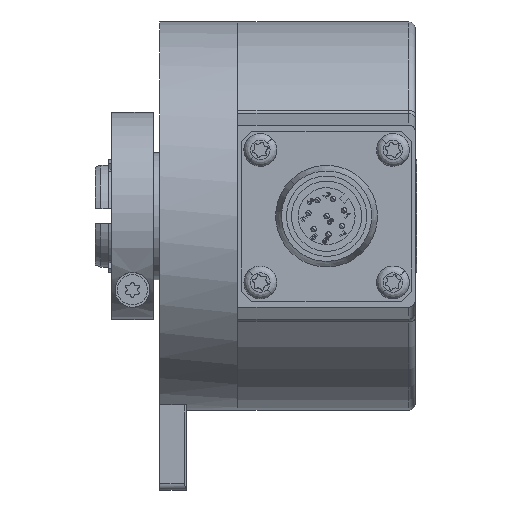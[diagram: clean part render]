
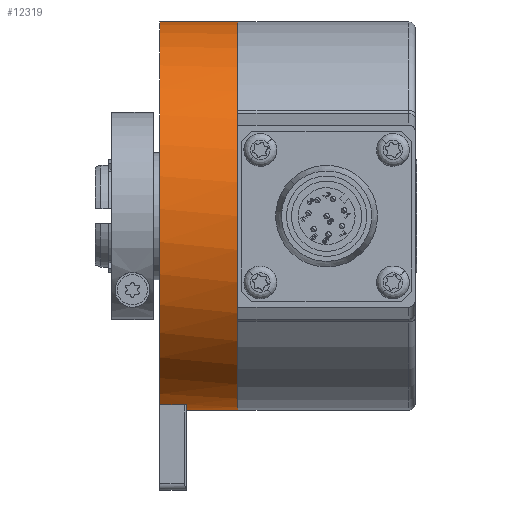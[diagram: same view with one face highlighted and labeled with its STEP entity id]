
A CAD part, front view. The second image highlights one B-rep face of the part: STEP entity #12319.
In plain terms, the highlighted cylindrical face has radius 29 mm (diameter 58 mm), a partial arc.
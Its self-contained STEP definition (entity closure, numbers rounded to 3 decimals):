
#308 = CARTESIAN_POINT ( 'NONE',  ( 8.068, 18.423, -28.142 ) ) ;
#756 = VERTEX_POINT ( 'NONE', #20234 ) ;
#877 = CARTESIAN_POINT ( 'NONE',  ( 0.378, 25.423, -29. ) ) ;
#1558 = VERTEX_POINT ( 'NONE', #877 ) ;
#2455 = ORIENTED_EDGE ( 'NONE', *, *, #18939, .F. ) ;
#3233 = VECTOR ( 'NONE', #12931, 1000. ) ;
#3636 = CARTESIAN_POINT ( 'NONE',  ( 8.068, 25.423, -29. ) ) ;
#3854 = LINE ( 'NONE', #3636, #20389 ) ;
#3909 = AXIS2_PLACEMENT_3D ( 'NONE', #4862, #9945, #18330 ) ;
#4146 = CARTESIAN_POINT ( 'NONE',  ( -3.622, 25.423, 29. ) ) ;
#4184 = LINE ( 'NONE', #16297, #3233 ) ;
#4467 = FACE_OUTER_BOUND ( 'NONE', #18828, .T. ) ;
#4862 = CARTESIAN_POINT ( 'NONE',  ( -3.622, 25.423, 0. ) ) ;
#5088 = DIRECTION ( 'NONE',  ( -1., 0., 0. ) ) ;
#5369 = DIRECTION ( 'NONE',  ( 0., 0., 1. ) ) ;
#5927 = DIRECTION ( 'NONE',  ( 0., 0., -1. ) ) ;
#6433 = EDGE_CURVE ( 'NONE', #14931, #1558, #14867, .T. ) ;
#7174 = VERTEX_POINT ( 'NONE', #19187 ) ;
#7317 = ORIENTED_EDGE ( 'NONE', *, *, #18789, .T. ) ;
#7495 = VERTEX_POINT ( 'NONE', #4146 ) ;
#7557 = VERTEX_POINT ( 'NONE', #17930 ) ;
#7886 = AXIS2_PLACEMENT_3D ( 'NONE', #9748, #21276, #5927 ) ;
#8293 = EDGE_CURVE ( 'NONE', #14931, #7557, #8691, .T. ) ;
#8691 = LINE ( 'NONE', #308, #12041 ) ;
#9748 = CARTESIAN_POINT ( 'NONE',  ( 8.068, 25.423, 0. ) ) ;
#9945 = DIRECTION ( 'NONE',  ( 1., 0., 0. ) ) ;
#10327 = CIRCLE ( 'NONE', #12498, 29. ) ;
#10752 = DIRECTION ( 'NONE',  ( 1., 0., 0. ) ) ;
#11093 = CYLINDRICAL_SURFACE ( 'NONE', #7886, 29. ) ;
#11372 = EDGE_CURVE ( 'NONE', #7495, #7557, #13571, .T. ) ;
#11546 = CARTESIAN_POINT ( 'NONE',  ( 8.068, 25.423, 0. ) ) ;
#12041 = VECTOR ( 'NONE', #5088, 1000. ) ;
#12319 = ADVANCED_FACE ( 'NONE', ( #4467 ), #11093, .T. ) ;
#12498 = AXIS2_PLACEMENT_3D ( 'NONE', #11546, #20258, #21634 ) ;
#12931 = DIRECTION ( 'NONE',  ( 1., 0., 0. ) ) ;
#13571 = CIRCLE ( 'NONE', #3909, 29. ) ;
#14867 = CIRCLE ( 'NONE', #20550, 29. ) ;
#14931 = VERTEX_POINT ( 'NONE', #16962 ) ;
#15679 = CARTESIAN_POINT ( 'NONE',  ( 0.378, 25.423, 0. ) ) ;
#15820 = ORIENTED_EDGE ( 'NONE', *, *, #17241, .F. ) ;
#16228 = ORIENTED_EDGE ( 'NONE', *, *, #8293, .F. ) ;
#16297 = CARTESIAN_POINT ( 'NONE',  ( 8.068, 25.423, 29. ) ) ;
#16962 = CARTESIAN_POINT ( 'NONE',  ( 0.378, 18.423, -28.142 ) ) ;
#17241 = EDGE_CURVE ( 'NONE', #7174, #756, #10327, .T. ) ;
#17527 = DIRECTION ( 'NONE',  ( 1., 0., 0. ) ) ;
#17930 = CARTESIAN_POINT ( 'NONE',  ( -3.622, 18.423, -28.142 ) ) ;
#18330 = DIRECTION ( 'NONE',  ( 0., 0., -1. ) ) ;
#18743 = ORIENTED_EDGE ( 'NONE', *, *, #6433, .T. ) ;
#18789 = EDGE_CURVE ( 'NONE', #1558, #756, #3854, .T. ) ;
#18828 = EDGE_LOOP ( 'NONE', ( #2455, #18934, #16228, #18743, #7317, #15820 ) ) ;
#18934 = ORIENTED_EDGE ( 'NONE', *, *, #11372, .T. ) ;
#18939 = EDGE_CURVE ( 'NONE', #7495, #7174, #4184, .T. ) ;
#19187 = CARTESIAN_POINT ( 'NONE',  ( 8.068, 25.423, 29. ) ) ;
#20234 = CARTESIAN_POINT ( 'NONE',  ( 8.068, 25.423, -29. ) ) ;
#20258 = DIRECTION ( 'NONE',  ( 1., 0., 0. ) ) ;
#20389 = VECTOR ( 'NONE', #17527, 1000. ) ;
#20550 = AXIS2_PLACEMENT_3D ( 'NONE', #15679, #10752, #5369 ) ;
#21276 = DIRECTION ( 'NONE',  ( 1., 0., 0. ) ) ;
#21634 = DIRECTION ( 'NONE',  ( 0., 0., -1. ) ) ;
